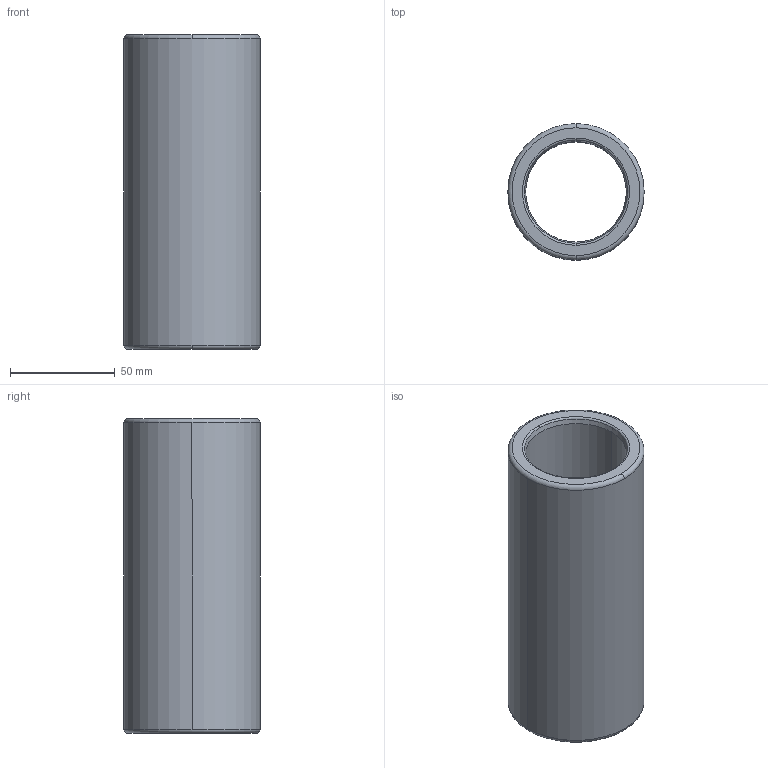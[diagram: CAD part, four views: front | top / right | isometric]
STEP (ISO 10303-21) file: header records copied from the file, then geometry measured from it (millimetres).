
FILE_DESCRIPTION((''),'2;1');
FILE_NAME('B30_040_150.stp','2009-01-12T10:50:54',(''),(''),'Mechanical Desktop 2009','Mechanical Desktop 2009',', , ');
FILE_SCHEMA(('CONFIG_CONTROL_DESIGN'));
Length unit declared in the file: millimetre
Products named in the file (2): Product; blmdl1
Assembly tree (1 placements, depth 2):
  Product
    blmdl1
Bounding box: 64.99 x 64.99 x 150 mm (x, y, z)
Volume: 225781.5 mm3; surface area: 55621.9 mm2
Topology: 1 solids, 1 shells, 18 faces, 48 edges, 32 vertices
Faces by surface type: torus 8, cylinder 4, cone 4, plane 2
Entity records: 705 total; most frequent: DIRECTION 128, CARTESIAN_POINT 100, ORIENTED_EDGE 96, AXIS2_PLACEMENT_3D 60, EDGE_CURVE 48, CIRCLE 40, VERTEX_POINT 32, EDGE_LOOP 20
